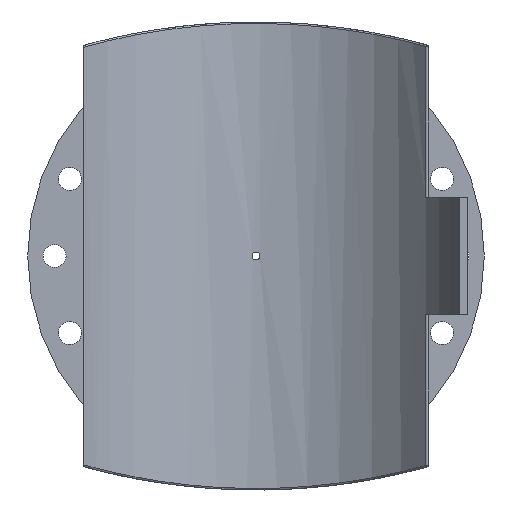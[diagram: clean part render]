
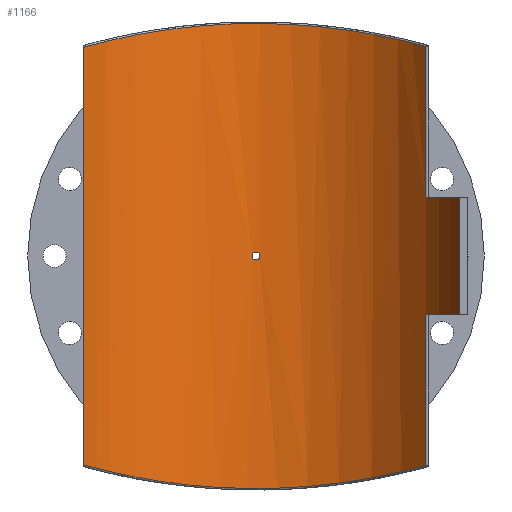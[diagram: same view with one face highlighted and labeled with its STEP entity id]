
A CAD part, front view. The second image highlights one B-rep face of the part: STEP entity #1166.
In plain terms, the highlighted cylindrical face has radius 280 mm (diameter 560 mm), a partial arc.
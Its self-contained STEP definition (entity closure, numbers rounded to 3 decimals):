
#55=FACE_BOUND('',#379,.T.);
#117=B_SPLINE_CURVE_WITH_KNOTS('',3,(#2391,#2392,#2393,#2394,#2395,#2396,
#2397,#2398,#2399,#2400),.UNSPECIFIED.,.F.,.F.,(4,1,1,1,1,1,1,4),(-61.978,
-54.483,-46.988,-39.492,-31.997,
-24.502,-17.006,-9.511),.UNSPECIFIED.);
#118=B_SPLINE_CURVE_WITH_KNOTS('',3,(#2409,#2410,#2411,#2412,#2413,#2414,
#2415,#2416,#2417,#2418),.UNSPECIFIED.,.F.,.F.,(4,1,1,1,1,1,1,4),(-58.416,
-50.921,-43.425,-35.93,-28.435,
-20.939,-13.444,-5.949),.UNSPECIFIED.);
#119=B_SPLINE_CURVE_WITH_KNOTS('',3,(#2421,#2422,#2423,#2424,#2425,#2426,
#2427,#2428,#2429,#2430),.UNSPECIFIED.,.F.,.F.,(4,2,2,2,4),(0.,0.196,
0.392,0.588,0.784),.UNSPECIFIED.);
#120=B_SPLINE_CURVE_WITH_KNOTS('',3,(#2431,#2432,#2433,#2434,#2435,#2436,
#2437,#2438,#2439,#2440,#2441,#2442,#2443,#2444,#2445,#2446,#2447,#2448,
#2449,#2450,#2451,#2452,#2453,#2454,#2455,#2456),.UNSPECIFIED.,.F.,.F.,
(4,2,2,2,2,2,2,2,2,2,2,2,4),(0.784,0.979,1.175,
1.371,1.567,1.763,1.959,2.155,
2.351,2.546,2.742,2.938,3.134),
 .UNSPECIFIED.);
#141=LINE('',#1747,#196);
#152=LINE('',#2063,#207);
#159=LINE('',#2405,#214);
#160=LINE('',#2408,#215);
#196=VECTOR('',#1396,10.);
#207=VECTOR('',#1435,10.);
#214=VECTOR('',#1472,10.);
#215=VECTOR('',#1475,10.);
#260=CYLINDRICAL_SURFACE('',#1267,280.);
#308=FACE_OUTER_BOUND('',#378,.T.);
#378=EDGE_LOOP('',(#903,#904,#905,#906,#907,#908,#909,#910));
#379=EDGE_LOOP('',(#911,#912));
#485=CIRCLE('',#1268,280.);
#486=CIRCLE('',#1269,280.);
#554=VERTEX_POINT('',#1738);
#557=VERTEX_POINT('',#1745);
#577=VERTEX_POINT('',#2056);
#580=VERTEX_POINT('',#2061);
#593=VERTEX_POINT('',#2371);
#594=VERTEX_POINT('',#2402);
#595=VERTEX_POINT('',#2404);
#596=VERTEX_POINT('',#2407);
#597=VERTEX_POINT('',#2419);
#598=VERTEX_POINT('',#2420);
#665=EDGE_CURVE('',#557,#554,#141,.T.);
#695=EDGE_CURVE('',#580,#577,#152,.T.);
#718=EDGE_CURVE('',#593,#580,#117,.T.);
#719=EDGE_CURVE('',#594,#557,#485,.T.);
#720=EDGE_CURVE('',#594,#595,#159,.T.);
#721=EDGE_CURVE('',#577,#595,#486,.T.);
#722=EDGE_CURVE('',#596,#593,#160,.T.);
#723=EDGE_CURVE('',#554,#596,#118,.T.);
#724=EDGE_CURVE('',#597,#598,#119,.T.);
#725=EDGE_CURVE('',#598,#597,#120,.T.);
#903=ORIENTED_EDGE('',*,*,#719,.F.);
#904=ORIENTED_EDGE('',*,*,#720,.T.);
#905=ORIENTED_EDGE('',*,*,#721,.F.);
#906=ORIENTED_EDGE('',*,*,#695,.F.);
#907=ORIENTED_EDGE('',*,*,#718,.F.);
#908=ORIENTED_EDGE('',*,*,#722,.F.);
#909=ORIENTED_EDGE('',*,*,#723,.F.);
#910=ORIENTED_EDGE('',*,*,#665,.F.);
#911=ORIENTED_EDGE('',*,*,#724,.T.);
#912=ORIENTED_EDGE('',*,*,#725,.T.);
#1166=ADVANCED_FACE('',(#308,#55),#260,.F.);
#1267=AXIS2_PLACEMENT_3D('',#2401,#1468,#1469);
#1268=AXIS2_PLACEMENT_3D('',#2403,#1470,#1471);
#1269=AXIS2_PLACEMENT_3D('',#2406,#1473,#1474);
#1396=DIRECTION('',(0.,0.,-1.));
#1435=DIRECTION('',(0.,0.,-1.));
#1468=DIRECTION('center_axis',(0.,0.,1.));
#1469=DIRECTION('ref_axis',(-1.,0.,0.));
#1470=DIRECTION('center_axis',(0.,0.,1.));
#1471=DIRECTION('ref_axis',(-0.945,-0.328,0.));
#1472=DIRECTION('',(0.,0.,1.));
#1473=DIRECTION('center_axis',(0.,0.,-1.));
#1474=DIRECTION('ref_axis',(-0.945,-0.328,0.));
#1475=DIRECTION('',(0.,0.,1.));
#1738=CARTESIAN_POINT('',(221.418,171.388,-272.976));
#1745=CARTESIAN_POINT('',(221.418,171.388,-76.25));
#1747=CARTESIAN_POINT('',(221.418,171.388,0.));
#2056=CARTESIAN_POINT('',(221.418,171.388,76.25));
#2061=CARTESIAN_POINT('',(221.418,171.388,272.976));
#2063=CARTESIAN_POINT('',(221.418,171.388,0.));
#2371=CARTESIAN_POINT('',(-225.,166.658,271.978));
#2391=CARTESIAN_POINT('Ctrl Pts',(-225.,166.658,271.978));
#2392=CARTESIAN_POINT('Ctrl Pts',(-210.434,186.324,276.072));
#2393=CARTESIAN_POINT('Ctrl Pts',(-176.192,221.743,284.835));
#2394=CARTESIAN_POINT('Ctrl Pts',(-112.577,259.936,296.308));
#2395=CARTESIAN_POINT('Ctrl Pts',(-40.6,280.397,303.127));
#2396=CARTESIAN_POINT('Ctrl Pts',(34.564,281.205,303.404));
#2397=CARTESIAN_POINT('Ctrl Pts',(107.012,262.284,297.069));
#2398=CARTESIAN_POINT('Ctrl Pts',(171.46,225.424,285.868));
#2399=CARTESIAN_POINT('Ctrl Pts',(206.443,190.735,277.112));
#2400=CARTESIAN_POINT('Ctrl Pts',(221.418,171.388,272.976));
#2401=CARTESIAN_POINT('Origin',(0.,0.,0.));
#2402=CARTESIAN_POINT('',(264.534,91.771,-76.25));
#2403=CARTESIAN_POINT('Origin',(0.,0.,
-76.25));
#2404=CARTESIAN_POINT('',(264.534,91.771,76.25));
#2405=CARTESIAN_POINT('',(264.534,91.771,0.));
#2406=CARTESIAN_POINT('Origin',(0.,0.,
76.25));
#2407=CARTESIAN_POINT('',(-225.,166.658,-271.978));
#2408=CARTESIAN_POINT('',(-225.,166.658,0.));
#2409=CARTESIAN_POINT('Ctrl Pts',(221.418,171.388,-272.976));
#2410=CARTESIAN_POINT('Ctrl Pts',(206.443,190.735,-277.112));
#2411=CARTESIAN_POINT('Ctrl Pts',(171.461,225.425,-285.869));
#2412=CARTESIAN_POINT('Ctrl Pts',(107.01,262.282,-297.067));
#2413=CARTESIAN_POINT('Ctrl Pts',(34.565,281.208,-303.407));
#2414=CARTESIAN_POINT('Ctrl Pts',(-40.598,280.395,-303.125));
#2415=CARTESIAN_POINT('Ctrl Pts',(-112.579,259.937,-296.31));
#2416=CARTESIAN_POINT('Ctrl Pts',(-176.192,221.742,-284.835));
#2417=CARTESIAN_POINT('Ctrl Pts',(-210.434,186.324,-276.072));
#2418=CARTESIAN_POINT('Ctrl Pts',(-225.,166.658,-271.978));
#2419=CARTESIAN_POINT('',(5.2,279.952,0.));
#2420=CARTESIAN_POINT('',(0.,280.,-5.2));
#2421=CARTESIAN_POINT('Ctrl Pts',(5.2,279.952,0.));
#2422=CARTESIAN_POINT('Ctrl Pts',(5.2,279.952,-0.653));
#2423=CARTESIAN_POINT('Ctrl Pts',(5.07,279.954,-1.349));
#2424=CARTESIAN_POINT('Ctrl Pts',(4.539,279.963,-2.631));
#2425=CARTESIAN_POINT('Ctrl Pts',(4.139,279.97,-3.215));
#2426=CARTESIAN_POINT('Ctrl Pts',(3.215,279.982,-4.139));
#2427=CARTESIAN_POINT('Ctrl Pts',(2.631,279.988,-4.539));
#2428=CARTESIAN_POINT('Ctrl Pts',(1.349,279.997,-5.07));
#2429=CARTESIAN_POINT('Ctrl Pts',(0.653,280.,-5.2));
#2430=CARTESIAN_POINT('Ctrl Pts',(0.,280.,-5.2));
#2431=CARTESIAN_POINT('Ctrl Pts',(0.,280.,-5.2));
#2432=CARTESIAN_POINT('Ctrl Pts',(-0.653,280.,-5.2));
#2433=CARTESIAN_POINT('Ctrl Pts',(-1.349,279.997,-5.07));
#2434=CARTESIAN_POINT('Ctrl Pts',(-2.631,279.988,-4.539));
#2435=CARTESIAN_POINT('Ctrl Pts',(-3.215,279.982,-4.139));
#2436=CARTESIAN_POINT('Ctrl Pts',(-4.139,279.97,-3.215));
#2437=CARTESIAN_POINT('Ctrl Pts',(-4.539,279.963,-2.631));
#2438=CARTESIAN_POINT('Ctrl Pts',(-5.07,279.954,-1.349));
#2439=CARTESIAN_POINT('Ctrl Pts',(-5.2,279.952,-0.653));
#2440=CARTESIAN_POINT('Ctrl Pts',(-5.2,279.952,0.653));
#2441=CARTESIAN_POINT('Ctrl Pts',(-5.07,279.954,1.349));
#2442=CARTESIAN_POINT('Ctrl Pts',(-4.539,279.963,2.631));
#2443=CARTESIAN_POINT('Ctrl Pts',(-4.139,279.97,3.215));
#2444=CARTESIAN_POINT('Ctrl Pts',(-3.215,279.982,4.139));
#2445=CARTESIAN_POINT('Ctrl Pts',(-2.631,279.988,4.539));
#2446=CARTESIAN_POINT('Ctrl Pts',(-1.349,279.997,5.07));
#2447=CARTESIAN_POINT('Ctrl Pts',(-0.653,280.,5.2));
#2448=CARTESIAN_POINT('Ctrl Pts',(0.653,280.,5.2));
#2449=CARTESIAN_POINT('Ctrl Pts',(1.349,279.997,5.07));
#2450=CARTESIAN_POINT('Ctrl Pts',(2.631,279.988,4.539));
#2451=CARTESIAN_POINT('Ctrl Pts',(3.215,279.982,4.139));
#2452=CARTESIAN_POINT('Ctrl Pts',(4.139,279.97,3.215));
#2453=CARTESIAN_POINT('Ctrl Pts',(4.539,279.963,2.631));
#2454=CARTESIAN_POINT('Ctrl Pts',(5.07,279.954,1.349));
#2455=CARTESIAN_POINT('Ctrl Pts',(5.2,279.952,0.653));
#2456=CARTESIAN_POINT('Ctrl Pts',(5.2,279.952,0.));
